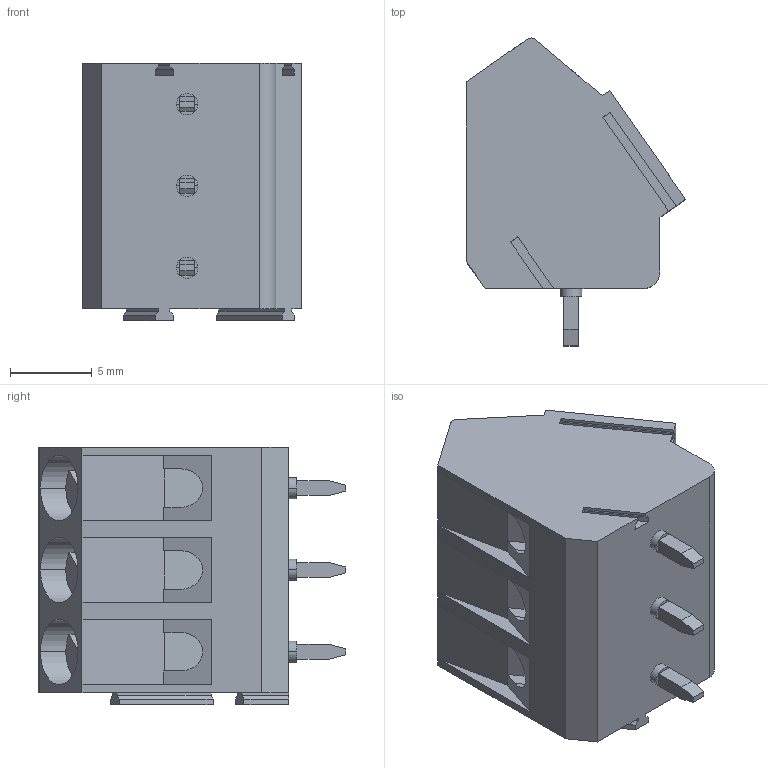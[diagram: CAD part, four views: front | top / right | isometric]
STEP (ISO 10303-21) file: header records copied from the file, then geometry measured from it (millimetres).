
FILE_DESCRIPTION(('SolidDesigner STEP Export'),'1');
FILE_NAME('smkdsp_1.5-3.stp','2000-06-20T13:10:58',(''),(''), 'SolidDesigner STEP processor Version: 7.0(Mar 1999)for AP214(CD)(Solid Model)', 'CoCreate SolidDesigner: 07.50 21-Dec-99(C) CoCreate Software GmbH','');
FILE_SCHEMA(('AUTOMOTIVE_DESIGN_CC2 {1 2 10303 214 -1 1 5 1}'));
Length unit declared in the file: millimetre
Products named in the file (2): smkdsp_1.5-3
Assembly tree (1 placements, depth 2):
  smkdsp_1.5-3
    smkdsp_1.5-3
Bounding box: 13.4 x 18.8 x 15.74 mm (x, y, z)
Volume: 2042.1 mm3; surface area: 1489.8 mm2
Topology: 1 solids, 1 shells, 201 faces, 531 edges, 351 vertices
Faces by surface type: plane 153, cylinder 48
Entity records: 7538 total; most frequent: ORIENTED_EDGE 1062, CARTESIAN_POINT 1023, DIRECTION 935, EDGE_CURVE 531, VECTOR 409, LINE 409, VERTEX_POINT 351, AXIS2_PLACEMENT_3D 263
